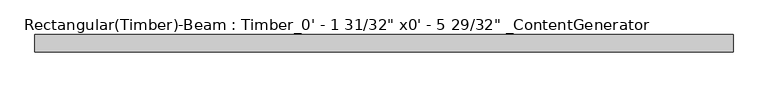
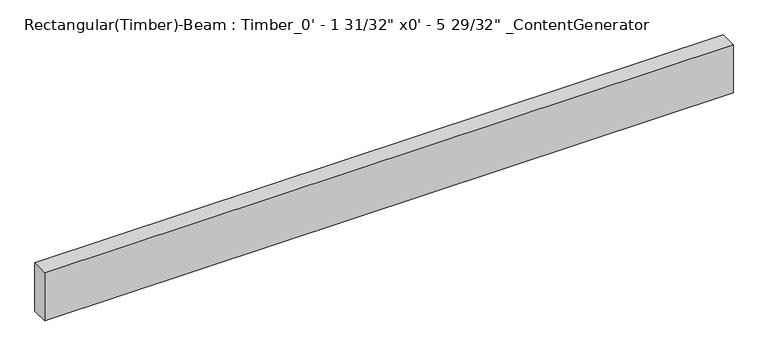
"""IFC4 building model written with IfcOpenShell, lengths in millimetres: beam geometry."""

from ifc_helpers import new_model, si_unit, frame, origin, place, context, project, spatial, polyline, outline, extrude, source, transform, mapped, element, save


def beam_d06b0733(model_context):
    return source(origin(), model_context, "Body", "SweptSolid", [
        extrude(outline(polyline([(1028.7, 25.4), (1028.7, -25.4), (-1028.7, -25.4), (-1028.7, 25.4), (1028.7, 25.4)])), frame((0.0, 0.0, -76.2), z_axis=(0.0, 0.0, 1.0), x_axis=(1.0, 0.0, 0.0)), (0.0, 0.0, 1.0), 152.4),
    ])


if __name__ == "__main__":
    model = new_model("IFC4")
    model_context = context("Model", 3, world=origin())
    ifc_project = project(units=[si_unit("LENGTHUNIT", "METRE", prefix="MILLI")], contexts=[model_context])
    site = spatial("IfcSite", under=ifc_project)
    building = spatial("IfcBuilding", under=site)
    placement = place(None, origin())
    beam_shape = beam_d06b0733(model_context)
    element("IfcBeam", 1, ObjectType="Rectangular(Timber)-Beam : Timber_0' - 1 31/32\" x0' - 5 29/32\" _ContentGenerator", at=placement, inside=building, context=model_context, shape_type="MappedRepresentation", body=[
        mapped(beam_shape, transform((0.0, 0.0, 0.0), x_axis=(1.0, 0.0, 0.0), y_axis=(0.0, 1.0, 0.0), z_axis=(0.0, 0.0, 1.0))),
    ])
    save(model, "model.ifc")
